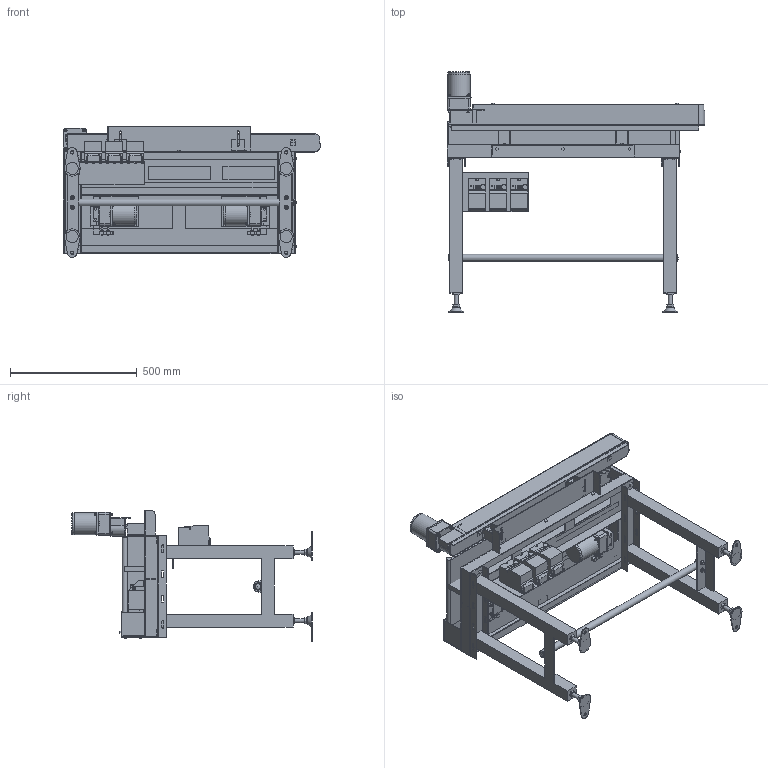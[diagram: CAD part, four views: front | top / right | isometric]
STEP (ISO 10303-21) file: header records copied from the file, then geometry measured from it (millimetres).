
FILE_DESCRIPTION( (''), '2;1');
FILE_NAME ('WEB-SGA-U-304x3-300-L-IVH-15-C.stp','2026-09-19T10:45:15',(''),(''),'spGate 21.9.5 (****-****-****-****)','','');
FILE_SCHEMA (('AUTOMOTIVE_DESIGN'));
Length unit declared in the file: millimetre
Products named in the file (91): WEB-SGA-U-304x3-300-L-IVH-15-C; TEMP_X_T-prt0; TEMP_X_T-prt1; TEMP_X_T-prt2; TEMP_X_T-prt3; TEMP_X_T-prt4; TEMP_X_T-prt5; TEMP_X_T-prt6; TEMP_X_T-prt7; TEMP_X_T-prt8; TEMP_X_T-prt9; TEMP_X_T-prt10; TEMP_X_T-prt11; TEMP_X_T-prt12; TEMP_X_T-prt13; TEMP_X_T-prt14; TEMP_X_T-prt15; TEMP_X_T-prt16; TEMP_X_T-prt17; TEMP_X_T-prt18; TEMP_X_T-prt19; TEMP_X_T-prt20; TEMP_X_T-prt21; TEMP_X_T-prt22; TEMP_X_T-prt23; TEMP_X_T-prt24; TEMP_X_T-prt25; TEMP_X_T-prt26; TEMP_X_T-prt27; TEMP_X_T-prt28; TEMP_X_T-prt29; TEMP_X_T-prt30; TEMP_X_T-prt31; TEMP_X_T-prt32; TEMP_X_T-prt33; TEMP_X_T-prt34; TEMP_X_T-prt35; TEMP_X_T-prt36; TEMP_X_T-prt37; TEMP_X_T-prt38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
Assembly tree (90 placements, depth 2):
  WEB-SGA-U-304x3-300-L-IVH-15-C
    TEMP_X_T-prt0
    TEMP_X_T-prt1
    TEMP_X_T-prt2
    TEMP_X_T-prt3
    TEMP_X_T-prt4
    TEMP_X_T-prt5
    TEMP_X_T-prt6
    TEMP_X_T-prt7
    TEMP_X_T-prt8
    TEMP_X_T-prt9
    TEMP_X_T-prt10
    TEMP_X_T-prt11
    TEMP_X_T-prt12
    TEMP_X_T-prt13
    TEMP_X_T-prt14
    TEMP_X_T-prt15
    TEMP_X_T-prt16
    TEMP_X_T-prt17
    TEMP_X_T-prt18
    TEMP_X_T-prt19
    TEMP_X_T-prt20
    TEMP_X_T-prt21
    TEMP_X_T-prt22
    TEMP_X_T-prt23
    TEMP_X_T-prt24
    TEMP_X_T-prt25
    TEMP_X_T-prt26
    TEMP_X_T-prt27
    TEMP_X_T-prt28
    TEMP_X_T-prt29
    TEMP_X_T-prt30
    TEMP_X_T-prt31
    TEMP_X_T-prt32
    TEMP_X_T-prt33
    TEMP_X_T-prt34
    TEMP_X_T-prt35
    TEMP_X_T-prt36
    TEMP_X_T-prt37
    TEMP_X_T-prt38
    TEMP_X_T-prt39
    TEMP_X_T-prt40
    TEMP_X_T-prt41
    TEMP_X_T-prt42
    TEMP_X_T-prt43
    TEMP_X_T-prt44
    TEMP_X_T-prt45
    TEMP_X_T-prt46
    TEMP_X_T-prt47
    TEMP_X_T-prt48
    TEMP_X_T-prt49
    TEMP_X_T-prt50
    TEMP_X_T-prt51
    TEMP_X_T-prt52
    TEMP_X_T-prt53
    TEMP_X_T-prt54
    TEMP_X_T-prt55
    TEMP_X_T-prt56
    TEMP_X_T-prt57
    TEMP_X_T-prt58
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Bounding box: 1015.9 x 948 x 517 mm (x, y, z)
Volume: 22710631.6 mm3; surface area: 5130579.4 mm2
Topology: 91 solids, 92 shells, 2631 faces, 6780 edges, 4500 vertices
Faces by surface type: plane 1971, cylinder 458, bspline 202
Full cylindrical faces by diameter (mm): 2 x3, 3.3 x9, 4 x18, 5 x15, 5.5 x3, 6 x32, 6.5 x24, 6.6 x12, 7 x4, 8 x8, 8.49 x3, 10 x12, 10.5 x1, 12 x3, 12.5 x12, 13 x4, 16 x8, 17 x4, 20 x7, 22 x1, 27.2 x1, 28 x2, 36 x3, 40 x4, 50 x2, 83 x3, 84 x3, 86.3 x3, 89 x3
Entity records: 140375 total; most frequent: CARTESIAN_POINT 19656, ORIENTED_EDGE 13528, DIRECTION 12942, COLOUR_RGB 9484, PRESENTATION_STYLE_ASSIGNMENT 9484, STYLED_ITEM 9484, EDGE_CURVE 6764, DRAUGHTING_PRE_DEFINED_CURVE_FONT 6764
